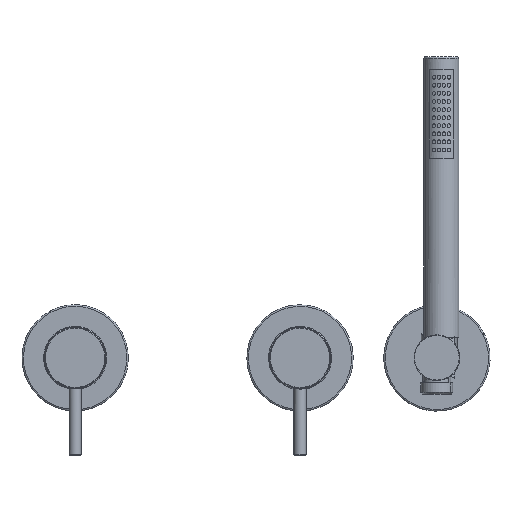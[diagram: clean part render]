
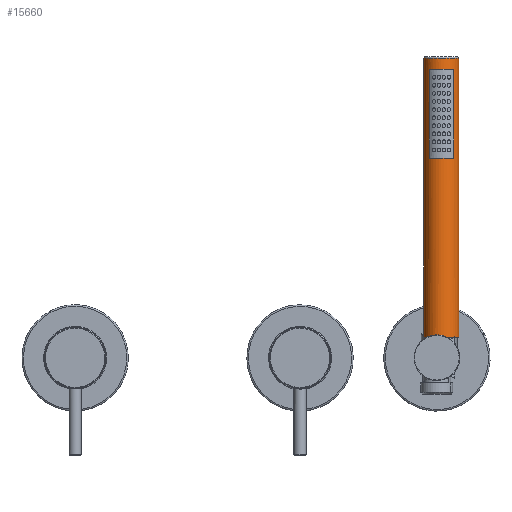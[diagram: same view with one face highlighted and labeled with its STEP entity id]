
A CAD part, top view. The second image highlights one B-rep face of the part: STEP entity #15660.
In plain terms, the highlighted cylindrical face has radius 11.5 mm (diameter 23 mm), a partial arc.
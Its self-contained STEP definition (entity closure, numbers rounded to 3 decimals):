
#47 = EDGE_CURVE ( 'NONE', #14520, #11490, #16814, .T. ) ;
#416 = VERTEX_POINT ( 'NONE', #13189 ) ;
#576 = CARTESIAN_POINT ( 'NONE',  ( 243.069, 131.27, 153. ) ) ;
#609 = LINE ( 'NONE', #11776, #2229 ) ;
#908 = ORIENTED_EDGE ( 'NONE', *, *, #5193, .T. ) ;
#1068 = CARTESIAN_POINT ( 'NONE',  ( 231.569, 150.97, 153. ) ) ;
#1097 = DIRECTION ( 'NONE',  ( 0., 1., 0. ) ) ;
#1293 = CIRCLE ( 'NONE', #11808, 11.5 ) ;
#1580 = DIRECTION ( 'NONE',  ( 0., -1., 0. ) ) ;
#1768 = DIRECTION ( 'NONE',  ( -1., 0., 0. ) ) ;
#1839 = ORIENTED_EDGE ( 'NONE', *, *, #14546, .T. ) ;
#1854 = DIRECTION ( 'NONE',  ( 0., 1., 0. ) ) ;
#2229 = VECTOR ( 'NONE', #17366, 1000. ) ;
#2617 = CARTESIAN_POINT ( 'NONE',  ( 254.569, 196.97, 153. ) ) ;
#2640 = CARTESIAN_POINT ( 'NONE',  ( 234.919, 131.27, 161.113 ) ) ;
#3209 = DIRECTION ( 'NONE',  ( 0., 1., 0. ) ) ;
#3868 = VERTEX_POINT ( 'NONE', #2617 ) ;
#3887 = VECTOR ( 'NONE', #7758, 1000. ) ;
#4206 = ORIENTED_EDGE ( 'NONE', *, *, #4864, .T. ) ;
#4567 = DIRECTION ( 'NONE',  ( -1., 0., 0. ) ) ;
#4864 = EDGE_CURVE ( 'NONE', #3868, #6349, #1293, .T. ) ;
#5100 = DIRECTION ( 'NONE',  ( 0., 1., 0. ) ) ;
#5106 = VERTEX_POINT ( 'NONE', #6013 ) ;
#5193 = EDGE_CURVE ( 'NONE', #5106, #416, #17096, .T. ) ;
#5579 = EDGE_LOOP ( 'NONE', ( #13484, #9607, #4206, #16667 ) ) ;
#5838 = CARTESIAN_POINT ( 'NONE',  ( 243.069, 13.47, 153. ) ) ;
#5946 = CARTESIAN_POINT ( 'NONE',  ( 243.069, 196.97, 153. ) ) ;
#6013 = CARTESIAN_POINT ( 'NONE',  ( 234.919, 189.77, 161.113 ) ) ;
#6349 = VERTEX_POINT ( 'NONE', #7322 ) ;
#6354 = CIRCLE ( 'NONE', #8402, 11.5 ) ;
#6660 = DIRECTION ( 'NONE',  ( -1., 0., 0. ) ) ;
#6876 = CARTESIAN_POINT ( 'NONE',  ( 251.219, 150.97, 161.113 ) ) ;
#7322 = CARTESIAN_POINT ( 'NONE',  ( 231.569, 196.97, 153. ) ) ;
#7711 = VECTOR ( 'NONE', #15215, 1000. ) ;
#7713 = CARTESIAN_POINT ( 'NONE',  ( 251.219, 131.27, 161.113 ) ) ;
#7758 = DIRECTION ( 'NONE',  ( 0., 1., 0. ) ) ;
#8402 = AXIS2_PLACEMENT_3D ( 'NONE', #576, #15964, #1768 ) ;
#8562 = VERTEX_POINT ( 'NONE', #7713 ) ;
#9197 = AXIS2_PLACEMENT_3D ( 'NONE', #5838, #3209, #4567 ) ;
#9437 = EDGE_CURVE ( 'NONE', #416, #8562, #11008, .T. ) ;
#9607 = ORIENTED_EDGE ( 'NONE', *, *, #15212, .T. ) ;
#9809 = DIRECTION ( 'NONE',  ( -1., 0., 0. ) ) ;
#10112 = EDGE_CURVE ( 'NONE', #14520, #6349, #10940, .T. ) ;
#10186 = CARTESIAN_POINT ( 'NONE',  ( 243.069, 150.97, 153. ) ) ;
#10690 = LINE ( 'NONE', #12143, #3887 ) ;
#10940 = LINE ( 'NONE', #1068, #11393 ) ;
#11008 = LINE ( 'NONE', #6876, #7711 ) ;
#11393 = VECTOR ( 'NONE', #5100, 1000. ) ;
#11490 = VERTEX_POINT ( 'NONE', #16831 ) ;
#11776 = CARTESIAN_POINT ( 'NONE',  ( 234.919, 150.97, 161.113 ) ) ;
#11808 = AXIS2_PLACEMENT_3D ( 'NONE', #5946, #1580, #9809 ) ;
#12143 = CARTESIAN_POINT ( 'NONE',  ( 254.569, 150.97, 153. ) ) ;
#12169 = ORIENTED_EDGE ( 'NONE', *, *, #12691, .T. ) ;
#12222 = AXIS2_PLACEMENT_3D ( 'NONE', #10186, #1854, #12737 ) ;
#12691 = EDGE_CURVE ( 'NONE', #8562, #14262, #6354, .T. ) ;
#12737 = DIRECTION ( 'NONE',  ( -1., 0., 0. ) ) ;
#12912 = FACE_OUTER_BOUND ( 'NONE', #5579, .T. ) ;
#13189 = CARTESIAN_POINT ( 'NONE',  ( 251.219, 189.77, 161.113 ) ) ;
#13484 = ORIENTED_EDGE ( 'NONE', *, *, #47, .T. ) ;
#13521 = ORIENTED_EDGE ( 'NONE', *, *, #9437, .T. ) ;
#14210 = CYLINDRICAL_SURFACE ( 'NONE', #12222, 11.5 ) ;
#14262 = VERTEX_POINT ( 'NONE', #2640 ) ;
#14387 = FACE_BOUND ( 'NONE', #17005, .T. ) ;
#14520 = VERTEX_POINT ( 'NONE', #17734 ) ;
#14546 = EDGE_CURVE ( 'NONE', #14262, #5106, #609, .T. ) ;
#15179 = CARTESIAN_POINT ( 'NONE',  ( 243.069, 189.77, 153. ) ) ;
#15212 = EDGE_CURVE ( 'NONE', #11490, #3868, #10690, .T. ) ;
#15215 = DIRECTION ( 'NONE',  ( 0., -1., 0. ) ) ;
#15660 = ADVANCED_FACE ( 'NONE', ( #14387, #12912 ), #14210, .T. ) ;
#15964 = DIRECTION ( 'NONE',  ( 0., -1., 0. ) ) ;
#16667 = ORIENTED_EDGE ( 'NONE', *, *, #10112, .F. ) ;
#16800 = AXIS2_PLACEMENT_3D ( 'NONE', #15179, #1097, #6660 ) ;
#16814 = CIRCLE ( 'NONE', #9197, 11.5 ) ;
#16831 = CARTESIAN_POINT ( 'NONE',  ( 254.569, 13.47, 153. ) ) ;
#17005 = EDGE_LOOP ( 'NONE', ( #908, #13521, #12169, #1839 ) ) ;
#17096 = CIRCLE ( 'NONE', #16800, 11.5 ) ;
#17366 = DIRECTION ( 'NONE',  ( 0., 1., 0. ) ) ;
#17734 = CARTESIAN_POINT ( 'NONE',  ( 231.569, 13.47, 153. ) ) ;
